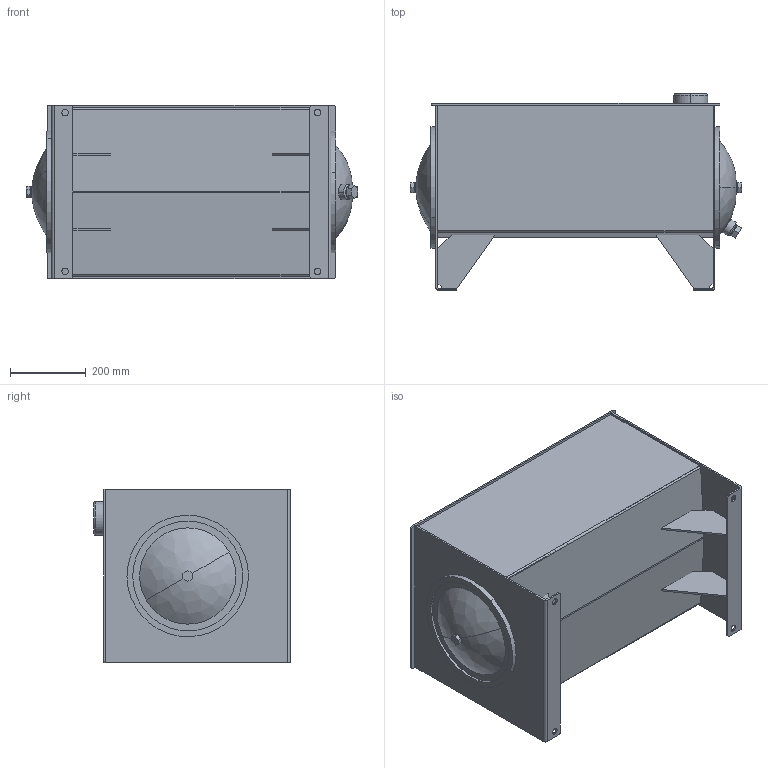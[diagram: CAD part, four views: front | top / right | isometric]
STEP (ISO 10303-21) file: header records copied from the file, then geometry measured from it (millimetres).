
FILE_DESCRIPTION (( 'STEP AP214' ), '1' );
FILE_NAME ('T1-20.STEP', '2019-02-27T17:07:26', ( '' ), ( '' ), 'SwSTEP 2.0', 'SolidWorks 2013', '' );
FILE_SCHEMA (( 'AUTOMOTIVE_DESIGN' ));
Length unit declared in the file: inch
Products named in the file (17): T1-20; T1-20-BDY; 12.00 END COVER; CRUSH WASHER; DRAIN; FILLER RISER; TL-ECD-12; 12.00 END COVER WITH DRAIN; 0.625 - 11 BAFFLE NUT; 12.00 GASKET; T1-20-BFL; T1-20-LD; T1-20-EB; T1-20-GST; 0.625 - 11 HEX BOLT; T1-20-EA; TL-EC-12
Assembly tree (23 placements, depth 3):
  T1-20
    T1-20-LD
    T1-20-EA
    T1-20-EB
    T1-20-BDY
    T1-20-BFL
    T1-20-GST  x4
    FILLER RISER
    TL-ECD-12
      0.625 - 11 HEX BOLT
      0.625 - 11 BAFFLE NUT
      12.00 GASKET
      CRUSH WASHER
      12.00 END COVER WITH DRAIN
      DRAIN
    TL-EC-12
      12.00 END COVER
      12.00 GASKET
      CRUSH WASHER
      0.625 - 11 HEX BOLT
      0.625 - 11 BAFFLE NUT
Bounding box: 874.25 x 517.59 x 457.2 mm (x, y, z)
Volume: 8506159.4 mm3; surface area: 4246608 mm2
Topology: 22 solids, 22 shells, 293 faces, 672 edges, 432 vertices
Faces by surface type: plane 166, cylinder 109, bspline 8, cone 8, torus 2
Entity records: 8489 total; most frequent: CARTESIAN_POINT 1438, DIRECTION 1234, ORIENTED_EDGE 1068, EDGE_CURVE 534, AXIS2_PLACEMENT_3D 462, VERTEX_POINT 340, VECTOR 310, LINE 310
